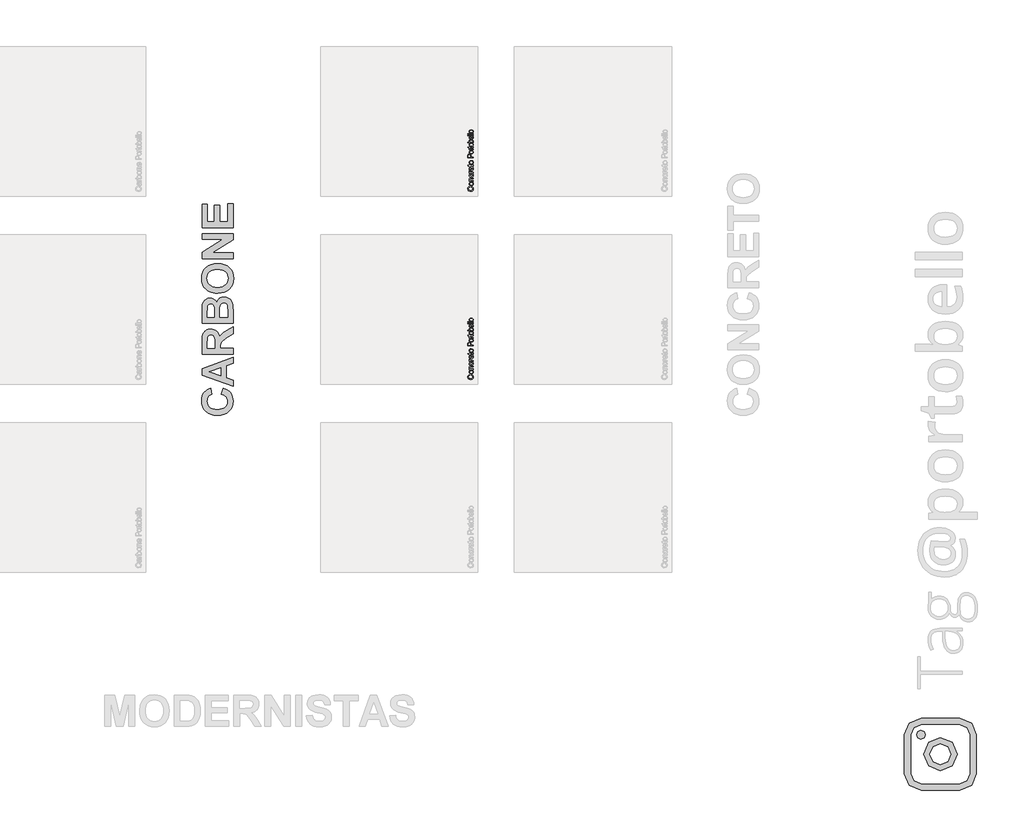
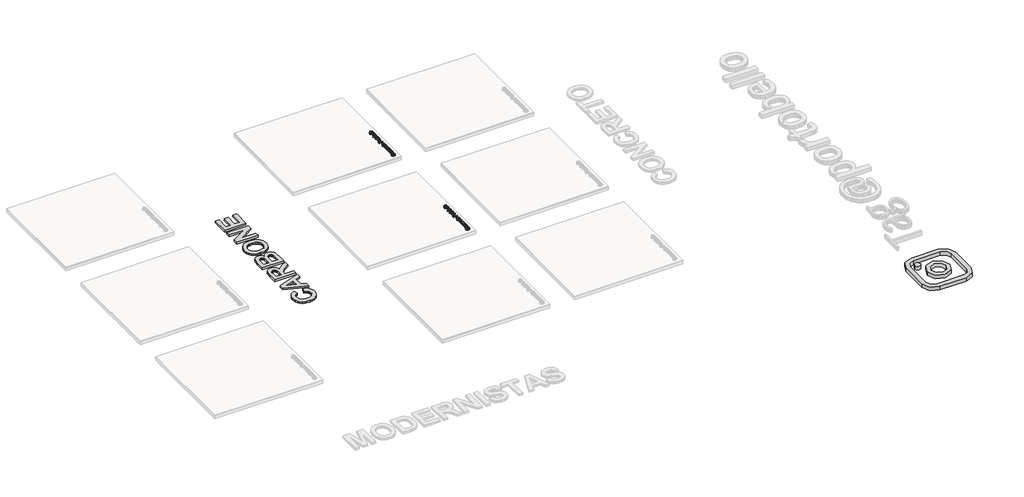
# One storey, part 6 of 12: 6 proxies.
"""IFC4 building model written with IfcOpenShell, lengths in millimetres."""

from ifc_helpers import new_model, si_unit, frame, origin, origin_with_axes, place, context, project, spatial, polyline, outline, extrude, transform, mapped, element, save
from components import generic_models_d67f6705

model = new_model("IFC4")

# Units and contexts
model_context = context("Model", 3, world=origin())
ifc_project = project(units=[si_unit("LENGTHUNIT", "METRE", prefix="MILLI")], contexts=[model_context])

# Site, building, storey
site = spatial("IfcSite", under=ifc_project)
building = spatial("IfcBuilding", under=site)
storey = spatial("IfcBuildingStorey", under=building, Name="PORTOBELLO - SHOWROOM", Elevation=0.0)

# Proxies
placement = place(None, origin())
generic_models_shape = generic_models_d67f6705(model_context)
element("IfcBuildingElementProxy", 1, Name="Blks_Instagram1 : Único", ObjectType="Blks_Instagram1 : Único", at=placement, inside=storey, context=model_context, shape_type="MappedRepresentation", body=[
    mapped(generic_models_shape, transform((-10832.1200562, -13141.2406298, 0.0), x_axis=(-1.0, 0.0, 0.0), y_axis=(0.0, -1.0, 0.0), z_axis=(0.0, 0.0, 1.0))),
])
element("IfcBuildingElementProxy", 2, Name="10mm Arial", ObjectType="10mm Arial", at=placement, inside=storey, context=model_context, shape_type="SweptSolid", body=[
    extrude(outline(polyline([(-19305.3095564, -6297.3091823), (-19302.0721949, -6284.7521435), (-19287.4396885, -6290.5462849), (-19276.7496509, -6299.6391016), (-19270.2105484, -6311.5830037), (-19268.0308476, -6325.9304015), (-19269.6801852, -6340.4954628), (-19274.628198, -6352.0622859), (-19282.7032078, -6360.928242), (-19293.7335363, -6367.3907024), (-19320.588922, -6372.6514149), (-19335.2367567, -6371.1645585), (-19347.885766, -6366.7039893), (-19358.1343452, -6359.5026993), (-19365.58089, -6349.7936803), (-19370.1150356, -6338.2789738), (-19371.6264174, -6325.6606214), (-19369.6705115, -6311.8926377), (-19363.8027937, -6300.5097556), (-19354.3850146, -6291.8675944), (-19341.7789249, -6286.3217734), (-19338.786818, -6298.8788121), (-19354.2255991, -6309.179508), (-19359.0693787, -6326.1511307), (-19353.6983015, -6345.7960293), (-19339.2773273, -6356.8938028), (-19320.6134474, -6360.0943761), (-19298.9819861, -6356.3051916), (-19285.1618858, -6344.5084423), (-19280.5878863, -6327.1812003), (-19282.1452535, -6316.6996291), (-19286.8173548, -6307.9654974), (-19294.5551394, -6301.3712127), (-19305.3095564, -6297.3091823)])), frame((0.0, 0.0, 17.0), z_axis=(0.0, 0.0, 1.0), x_axis=(1.0, 0.0, 0.0)), (0.0, 0.0, 1.0), 20.0),
    extrude(outline(polyline([(-19306.4867788, -6272.1951048), (-19324.2738733, -6269.4789094), (-19336.7757297, -6261.3303232), (-19342.900965, -6251.2626192), (-19344.94271, -6239.2083525), (-19342.4564409, -6226.0167173), (-19334.9976334, -6215.4799638), (-19323.1548989, -6208.5729794), (-19307.5168484, -6206.2706512), (-19285.1741486, -6210.3418786), (-19272.5312707, -6222.1999416), (-19268.0308476, -6239.2083525), (-19270.5079197, -6252.5594033), (-19277.939136, -6263.083894), (-19290.0301909, -6269.9173021), (-19306.4867788, -6272.1951048)]), holes=[polyline([(-19306.5113043, -6259.638066), (-19295.1468163, -6258.1849321), (-19287.0503467, -6253.8255305), (-19282.2035014, -6247.2649682), (-19280.5878863, -6239.2083525), (-19282.2126985, -6231.188525), (-19287.0871349, -6224.6402255), (-19295.2909034, -6220.2808239), (-19306.9037117, -6218.82769), (-19317.9371059, -6220.2900209), (-19325.9232109, -6224.6770137), (-19330.7700562, -6231.2345103), (-19332.3856713, -6239.2083525), (-19330.7761875, -6247.2649682), (-19325.9477364, -6253.8255305), (-19317.8696609, -6258.1849321), (-19306.5113043, -6259.638066)])]), frame((0.0, 0.0, 17.0), z_axis=(0.0, 0.0, 1.0), x_axis=(1.0, 0.0, 0.0)), (0.0, 0.0, 1.0), 20.0),
    extrude(outline(polyline([(-19269.6004774, -6192.1439826), (-19343.3730802, -6192.1439826), (-19343.3730802, -6179.5869438), (-19333.0723843, -6179.5869438), (-19341.9751286, -6169.9852238), (-19344.94271, -6156.876362), (-19342.5514771, -6145.018299), (-19336.2729577, -6136.9248951), (-19327.0391196, -6133.160236), (-19314.8990138, -6132.4980485), (-19269.6004774, -6132.4980485), (-19269.6004774, -6145.0550872), (-19313.2067566, -6145.0550872), (-19324.3167928, -6146.5020897), (-19330.190642, -6151.6156495), (-19332.3856713, -6160.2363509), (-19327.4560525, -6173.8602474), (-19320.3130105, -6178.1552697), (-19308.7431217, -6179.5869438), (-19269.6004774, -6179.5869438), (-19269.6004774, -6192.1439826)])), frame((0.0, 0.0, 17.0), z_axis=(0.0, 0.0, 1.0), x_axis=(1.0, 0.0, 0.0)), (0.0, 0.0, 1.0), 20.0),
    extrude(outline(polyline([(-19296.2841848, -6068.1432248), (-19294.714555, -6055.586186), (-19283.5462707, -6059.0871963), (-19275.1064446, -6065.6661527), (-19269.7997468, -6074.703787), (-19268.0308476, -6085.5808313), (-19270.4987226, -6098.9380134), (-19277.9023478, -6109.3827964), (-19289.9167606, -6116.124234), (-19306.2169987, -6118.3713798), (-19327.0759078, -6114.5331444), (-19340.4790752, -6102.8344969), (-19344.94271, -6085.7525096), (-19343.4098684, -6075.1421797), (-19338.8113435, -6066.659434), (-19331.3923899, -6060.5740527), (-19321.3982623, -6057.1558158), (-19319.8286325, -6069.7128546), (-19329.2341488, -6075.5376529), (-19332.3856713, -6085.6544077), (-19330.8344355, -6093.7692714), (-19326.1807283, -6100.210272), (-19318.1731635, -6104.4133238), (-19306.5603552, -6105.8143411), (-19294.791197, -6104.4439806), (-19286.7560411, -6100.3328993), (-19282.129925, -6094.0083947), (-19280.5878863, -6085.9977643), (-19284.4383846, -6074.1642267), (-19296.2841848, -6068.1432248)])), frame((0.0, 0.0, 17.0), z_axis=(0.0, 0.0, 1.0), x_axis=(1.0, 0.0, 0.0)), (0.0, 0.0, 1.0), 20.0),
    extrude(outline(polyline([(-19269.6004774, -6044.5987771), (-19343.3730802, -6044.5987771), (-19343.3730802, -6033.6113681), (-19332.4592477, -6033.6113681), (-19342.5146889, -6025.8122698), (-19344.94271, -6017.9641206), (-19341.0676864, -6005.3580309), (-19329.8104973, -6009.5518857), (-19332.3856713, -6018.3810535), (-19329.9085992, -6025.4811761), (-19323.0414686, -6030.0061246), (-19308.3752397, -6032.0417383), (-19269.6004774, -6032.0417383), (-19269.6004774, -6044.5987771)])), frame((0.0, 0.0, 17.0), z_axis=(0.0, 0.0, 1.0), x_axis=(1.0, 0.0, 0.0)), (0.0, 0.0, 1.0), 20.0),
    extrude(outline(polyline([(-19291.5752953, -5945.8592496), (-19290.0056654, -5933.5474655), (-19280.7289078, -5937.9835092), (-19273.7943322, -5945.0621719), (-19269.4717187, -5954.6240381), (-19268.0308476, -5966.5096922), (-19270.5171167, -5981.2433661), (-19277.9759242, -5992.580263), (-19289.922892, -5999.8091442), (-19305.8736422, -6002.2187712), (-19322.3608869, -5999.7846187), (-19334.6910651, -5992.4821611), (-19342.3797988, -5981.2985484), (-19344.94271, -5967.2209308), (-19342.3859302, -5953.5817058), (-19334.7155906, -5942.6832017), (-19322.4099378, -5935.5370939), (-19305.9472185, -5933.155058), (-19302.5627042, -5933.2286344), (-19302.5627042, -5989.6617325), (-19293.1633192, -5987.488163), (-19286.2532691, -5982.4389826), (-19282.004232, -5975.1518534), (-19280.5878863, -5966.2644376), (-19283.2121112, -5953.9526535), (-19291.5752953, -5945.8592496)]), holes=[polyline([(-19315.119743, -5989.6617325), (-19315.119743, -5945.7120968), (-19326.4995593, -5950.7398174), (-19330.9141433, -5958.0606691), (-19332.3856713, -5967.2699817), (-19327.6890445, -5982.7332882), (-19322.1984057, -5987.5985276), (-19315.119743, -5989.6617325)])]), frame((0.0, 0.0, 17.0), z_axis=(0.0, 0.0, 1.0), x_axis=(1.0, 0.0, 0.0)), (0.0, 0.0, 1.0), 20.0),
    extrude(outline(polyline([(-19280.0728516, -5893.9143118), (-19269.2325954, -5892.344682), (-19268.0308476, -5901.7379356), (-19270.1155122, -5912.2593607), (-19275.5846912, -5917.5078105), (-19289.8339872, -5919.0283894), (-19330.8160414, -5919.0283894), (-19330.8160414, -5928.4461685), (-19343.3730802, -5928.4461685), (-19343.3730802, -5919.0283894), (-19361.3011961, -5919.0283894), (-19368.6833615, -5906.4713506), (-19343.3730802, -5906.4713506), (-19343.3730802, -5893.9143118), (-19330.8160414, -5893.9143118), (-19330.8160414, -5906.4713506), (-19290.2018692, -5906.4713506), (-19283.727146, -5905.809163), (-19281.4340149, -5903.6631847), (-19280.5878863, -5899.3834908), (-19280.0728516, -5893.9143118)])), frame((0.0, 0.0, 17.0), z_axis=(0.0, 0.0, 1.0), x_axis=(1.0, 0.0, 0.0)), (0.0, 0.0, 1.0), 20.0),
    extrude(outline(polyline([(-19306.4867788, -5884.4965328), (-19324.2738733, -5881.7803374), (-19336.7757297, -5873.6317512), (-19342.900965, -5863.5640472), (-19344.94271, -5851.5097805), (-19342.4564409, -5838.3181453), (-19334.9976334, -5827.7813918), (-19323.1548989, -5820.8744074), (-19307.5168484, -5818.5720792), (-19285.1741486, -5822.6433066), (-19272.5312707, -5834.5013696), (-19268.0308476, -5851.5097805), (-19270.5079197, -5864.8608313), (-19277.939136, -5875.385322), (-19290.0301909, -5882.2187301), (-19306.4867788, -5884.4965328)]), holes=[polyline([(-19306.5113043, -5871.939494), (-19295.1468163, -5870.4863601), (-19287.0503467, -5866.1269585), (-19282.2035014, -5859.5663962), (-19280.5878863, -5851.5097805), (-19282.2126985, -5843.489953), (-19287.0871349, -5836.9416535), (-19295.2909034, -5832.5822519), (-19306.9037117, -5831.129118), (-19317.9371059, -5832.5914489), (-19325.9232109, -5836.9784417), (-19330.7700562, -5843.5359383), (-19332.3856713, -5851.5097805), (-19330.7761875, -5859.5663962), (-19325.9477364, -5866.1269585), (-19317.8696609, -5870.4863601), (-19306.5113043, -5871.939494)])]), frame((0.0, 0.0, 17.0), z_axis=(0.0, 0.0, 1.0), x_axis=(1.0, 0.0, 0.0)), (0.0, 0.0, 1.0), 20.0),
])
element("IfcBuildingElementProxy", 3, Name="10mm Arial", ObjectType="10mm Arial", at=placement, inside=storey, context=model_context, shape_type="SweptSolid", body=[
    extrude(outline(polyline([(-19305.3095564, -2897.3091823), (-19302.0721949, -2884.7521435), (-19287.4396885, -2890.5462849), (-19276.7496509, -2899.6391016), (-19270.2105484, -2911.5830037), (-19268.0308476, -2925.9304015), (-19269.6801852, -2940.4954628), (-19274.628198, -2952.0622859), (-19282.7032078, -2960.928242), (-19293.7335363, -2967.3907024), (-19320.588922, -2972.6514149), (-19335.2367567, -2971.1645585), (-19347.885766, -2966.7039893), (-19358.1343452, -2959.5026993), (-19365.58089, -2949.7936803), (-19370.1150356, -2938.2789738), (-19371.6264174, -2925.6606214), (-19369.6705115, -2911.8926377), (-19363.8027937, -2900.5097556), (-19354.3850146, -2891.8675944), (-19341.7789249, -2886.3217734), (-19338.786818, -2898.8788121), (-19354.2255991, -2909.179508), (-19359.0693787, -2926.1511307), (-19353.6983015, -2945.7960293), (-19339.2773273, -2956.8938028), (-19320.6134474, -2960.0943761), (-19298.9819861, -2956.3051916), (-19285.1618858, -2944.5084423), (-19280.5878863, -2927.1812003), (-19282.1452535, -2916.6996291), (-19286.8173548, -2907.9654974), (-19294.5551394, -2901.3712127), (-19305.3095564, -2897.3091823)])), frame((0.0, 0.0, 17.0), z_axis=(0.0, 0.0, 1.0), x_axis=(1.0, 0.0, 0.0)), (0.0, 0.0, 1.0), 20.0),
    extrude(outline(polyline([(-19306.4867788, -2872.1951048), (-19324.2738733, -2869.4789094), (-19336.7757297, -2861.3303232), (-19342.900965, -2851.2626192), (-19344.94271, -2839.2083525), (-19342.4564409, -2826.0167173), (-19334.9976334, -2815.4799638), (-19323.1548989, -2808.5729794), (-19307.5168484, -2806.2706512), (-19285.1741486, -2810.3418786), (-19272.5312707, -2822.1999416), (-19268.0308476, -2839.2083525), (-19270.5079197, -2852.5594033), (-19277.939136, -2863.083894), (-19290.0301909, -2869.9173021), (-19306.4867788, -2872.1951048)]), holes=[polyline([(-19306.5113043, -2859.638066), (-19295.1468163, -2858.1849321), (-19287.0503467, -2853.8255305), (-19282.2035014, -2847.2649682), (-19280.5878863, -2839.2083525), (-19282.2126985, -2831.188525), (-19287.0871349, -2824.6402255), (-19295.2909034, -2820.2808239), (-19306.9037117, -2818.82769), (-19317.9371059, -2820.2900209), (-19325.9232109, -2824.6770137), (-19330.7700562, -2831.2345103), (-19332.3856713, -2839.2083525), (-19330.7761875, -2847.2649682), (-19325.9477364, -2853.8255305), (-19317.8696609, -2858.1849321), (-19306.5113043, -2859.638066)])]), frame((0.0, 0.0, 17.0), z_axis=(0.0, 0.0, 1.0), x_axis=(1.0, 0.0, 0.0)), (0.0, 0.0, 1.0), 20.0),
    extrude(outline(polyline([(-19269.6004774, -2792.1439826), (-19343.3730802, -2792.1439826), (-19343.3730802, -2779.5869438), (-19333.0723843, -2779.5869438), (-19341.9751286, -2769.9852238), (-19344.94271, -2756.876362), (-19342.5514771, -2745.018299), (-19336.2729577, -2736.9248951), (-19327.0391196, -2733.160236), (-19314.8990138, -2732.4980485), (-19269.6004774, -2732.4980485), (-19269.6004774, -2745.0550872), (-19313.2067566, -2745.0550872), (-19324.3167928, -2746.5020897), (-19330.190642, -2751.6156495), (-19332.3856713, -2760.2363509), (-19327.4560525, -2773.8602474), (-19320.3130105, -2778.1552697), (-19308.7431217, -2779.5869438), (-19269.6004774, -2779.5869438), (-19269.6004774, -2792.1439826)])), frame((0.0, 0.0, 17.0), z_axis=(0.0, 0.0, 1.0), x_axis=(1.0, 0.0, 0.0)), (0.0, 0.0, 1.0), 20.0),
    extrude(outline(polyline([(-19296.2841848, -2668.1432248), (-19294.714555, -2655.586186), (-19283.5462707, -2659.0871963), (-19275.1064446, -2665.6661527), (-19269.7997468, -2674.703787), (-19268.0308476, -2685.5808313), (-19270.4987226, -2698.9380134), (-19277.9023478, -2709.3827964), (-19289.9167606, -2716.124234), (-19306.2169987, -2718.3713798), (-19327.0759078, -2714.5331444), (-19340.4790752, -2702.8344969), (-19344.94271, -2685.7525096), (-19343.4098684, -2675.1421797), (-19338.8113435, -2666.659434), (-19331.3923899, -2660.5740527), (-19321.3982623, -2657.1558158), (-19319.8286325, -2669.7128546), (-19329.2341488, -2675.5376529), (-19332.3856713, -2685.6544077), (-19330.8344355, -2693.7692714), (-19326.1807283, -2700.210272), (-19318.1731635, -2704.4133238), (-19306.5603552, -2705.8143411), (-19294.791197, -2704.4439806), (-19286.7560411, -2700.3328993), (-19282.129925, -2694.0083947), (-19280.5878863, -2685.9977643), (-19284.4383846, -2674.1642267), (-19296.2841848, -2668.1432248)])), frame((0.0, 0.0, 17.0), z_axis=(0.0, 0.0, 1.0), x_axis=(1.0, 0.0, 0.0)), (0.0, 0.0, 1.0), 20.0),
    extrude(outline(polyline([(-19269.6004774, -2644.5987771), (-19343.3730802, -2644.5987771), (-19343.3730802, -2633.6113681), (-19332.4592477, -2633.6113681), (-19342.5146889, -2625.8122698), (-19344.94271, -2617.9641206), (-19341.0676864, -2605.3580309), (-19329.8104973, -2609.5518857), (-19332.3856713, -2618.3810535), (-19329.9085992, -2625.4811761), (-19323.0414686, -2630.0061246), (-19308.3752397, -2632.0417383), (-19269.6004774, -2632.0417383), (-19269.6004774, -2644.5987771)])), frame((0.0, 0.0, 17.0), z_axis=(0.0, 0.0, 1.0), x_axis=(1.0, 0.0, 0.0)), (0.0, 0.0, 1.0), 20.0),
    extrude(outline(polyline([(-19291.5752953, -2545.8592496), (-19290.0056654, -2533.5474655), (-19280.7289078, -2537.9835092), (-19273.7943322, -2545.0621719), (-19269.4717187, -2554.6240381), (-19268.0308476, -2566.5096922), (-19270.5171167, -2581.2433661), (-19277.9759242, -2592.580263), (-19289.922892, -2599.8091442), (-19305.8736422, -2602.2187712), (-19322.3608869, -2599.7846187), (-19334.6910651, -2592.4821611), (-19342.3797988, -2581.2985484), (-19344.94271, -2567.2209308), (-19342.3859302, -2553.5817058), (-19334.7155906, -2542.6832017), (-19322.4099378, -2535.5370939), (-19305.9472185, -2533.155058), (-19302.5627042, -2533.2286344), (-19302.5627042, -2589.6617325), (-19293.1633192, -2587.488163), (-19286.2532691, -2582.4389826), (-19282.004232, -2575.1518534), (-19280.5878863, -2566.2644376), (-19283.2121112, -2553.9526535), (-19291.5752953, -2545.8592496)]), holes=[polyline([(-19315.119743, -2589.6617325), (-19315.119743, -2545.7120968), (-19326.4995593, -2550.7398174), (-19330.9141433, -2558.0606691), (-19332.3856713, -2567.2699817), (-19327.6890445, -2582.7332882), (-19322.1984057, -2587.5985276), (-19315.119743, -2589.6617325)])]), frame((0.0, 0.0, 17.0), z_axis=(0.0, 0.0, 1.0), x_axis=(1.0, 0.0, 0.0)), (0.0, 0.0, 1.0), 20.0),
    extrude(outline(polyline([(-19280.0728516, -2493.9143118), (-19269.2325954, -2492.344682), (-19268.0308476, -2501.7379356), (-19270.1155122, -2512.2593607), (-19275.5846912, -2517.5078105), (-19289.8339872, -2519.0283894), (-19330.8160414, -2519.0283894), (-19330.8160414, -2528.4461685), (-19343.3730802, -2528.4461685), (-19343.3730802, -2519.0283894), (-19361.3011961, -2519.0283894), (-19368.6833615, -2506.4713506), (-19343.3730802, -2506.4713506), (-19343.3730802, -2493.9143118), (-19330.8160414, -2493.9143118), (-19330.8160414, -2506.4713506), (-19290.2018692, -2506.4713506), (-19283.727146, -2505.809163), (-19281.4340149, -2503.6631847), (-19280.5878863, -2499.3834908), (-19280.0728516, -2493.9143118)])), frame((0.0, 0.0, 17.0), z_axis=(0.0, 0.0, 1.0), x_axis=(1.0, 0.0, 0.0)), (0.0, 0.0, 1.0), 20.0),
    extrude(outline(polyline([(-19306.4867788, -2484.4965328), (-19324.2738733, -2481.7803374), (-19336.7757297, -2473.6317512), (-19342.900965, -2463.5640472), (-19344.94271, -2451.5097805), (-19342.4564409, -2438.3181453), (-19334.9976334, -2427.7813918), (-19323.1548989, -2420.8744074), (-19307.5168484, -2418.5720792), (-19285.1741486, -2422.6433066), (-19272.5312707, -2434.5013696), (-19268.0308476, -2451.5097805), (-19270.5079197, -2464.8608313), (-19277.939136, -2475.385322), (-19290.0301909, -2482.2187301), (-19306.4867788, -2484.4965328)]), holes=[polyline([(-19306.5113043, -2471.939494), (-19295.1468163, -2470.4863601), (-19287.0503467, -2466.1269585), (-19282.2035014, -2459.5663962), (-19280.5878863, -2451.5097805), (-19282.2126985, -2443.489953), (-19287.0871349, -2436.9416535), (-19295.2909034, -2432.5822519), (-19306.9037117, -2431.129118), (-19317.9371059, -2432.5914489), (-19325.9232109, -2436.9784417), (-19330.7700562, -2443.5359383), (-19332.3856713, -2451.5097805), (-19330.7761875, -2459.5663962), (-19325.9477364, -2466.1269585), (-19317.8696609, -2470.4863601), (-19306.5113043, -2471.939494)])]), frame((0.0, 0.0, 17.0), z_axis=(0.0, 0.0, 1.0), x_axis=(1.0, 0.0, 0.0)), (0.0, 0.0, 1.0), 20.0),
])
element("IfcBuildingElementProxy", 4, Name="10mm Arial Narrow", ObjectType="10mm Arial Narrow", at=placement, inside=storey, context=model_context, shape_type="SweptSolid", body=[
    extrude(outline(polyline([(-19269.6004774, -5765.6286257), (-19370.3190812, -5765.6286257), (-19370.3190812, -5734.3317411), (-19368.4407604, -5718.0360395), (-19358.9603173, -5706.5630534), (-19341.9412084, -5702.273375), (-19329.8653829, -5704.0596834), (-19320.2389891, -5709.4186086), (-19313.9377307, -5719.1623974), (-19311.8373113, -5734.1032966), (-19311.8373113, -5755.8816641), (-19269.6004774, -5755.8816641), (-19269.6004774, -5765.6286257)]), holes=[polyline([(-19323.2087665, -5755.8816641), (-19323.2087665, -5732.9103091), (-19327.7395807, -5717.0461137), (-19341.4081715, -5712.0203366), (-19351.5739479, -5714.4951511), (-19357.3738977, -5720.47278), (-19358.9476259, -5733.1387536), (-19358.9476259, -5755.8816641), (-19323.2087665, -5755.8816641)])]), frame((0.0, 0.0, 17.0), z_axis=(0.0, 0.0, 1.0), x_axis=(1.0, 0.0, 0.0)), (0.0, 0.0, 1.0), 20.0),
    extrude(outline(polyline([(-19306.1515836, -5694.1509069), (-19322.7423592, -5692.1964381), (-19334.694444, -5686.3330315), (-19341.9189986, -5677.4744647), (-19344.3271834, -5666.5345156), (-19341.9189986, -5655.72148), (-19334.694444, -5646.8375306), (-19322.9327295, -5640.8979758), (-19306.913065, -5638.9181242), (-19289.7511784, -5640.8630746), (-19277.6087233, -5646.6979257), (-19270.3841687, -5655.5469739), (-19267.9759838, -5666.5345156), (-19270.3905144, -5677.3951438), (-19277.634106, -5686.2695747), (-19289.5925365, -5692.1805739), (-19306.1515836, -5694.1509069)]), holes=[polyline([(-19306.1769663, -5684.4039453), (-19293.6252149, -5683.0999084), (-19284.7539569, -5679.1877978), (-19279.4806983, -5673.3466011), (-19277.7229455, -5666.2553058), (-19279.4965625, -5659.5352326), (-19284.8174137, -5653.8431593), (-19293.7045359, -5649.9596042), (-19306.1769663, -5648.6650859), (-19318.6906437, -5649.9691228), (-19327.5492104, -5653.8812333), (-19332.8224689, -5659.7224301), (-19334.5802218, -5666.8137254), (-19332.8129504, -5673.5813912), (-19327.5111363, -5679.263946), (-19318.6430511, -5683.1189455), (-19306.1769663, -5684.4039453)])]), frame((0.0, 0.0, 17.0), z_axis=(0.0, 0.0, 1.0), x_axis=(1.0, 0.0, 0.0)), (0.0, 0.0, 1.0), 20.0),
    extrude(outline(polyline([(-19277.7229455, -5567.4404054), (-19267.9759838, -5565.8159118), (-19267.9759838, -5573.1768985), (-19270.0954403, -5581.4516628), (-19275.8953902, -5585.766724), (-19290.5412154, -5586.9343288), (-19332.9557282, -5586.9343288), (-19332.9557282, -5595.0567968), (-19336.2047154, -5595.0567968), (-19331.3312346, -5596.6812904), (-19332.9557282, -5604.2453388), (-19330.63321, -5610.3244985), (-19324.1479269, -5614.1953621), (-19308.7406203, -5616.1752137), (-19269.6004774, -5616.1752137), (-19269.6004774, -5625.9221754), (-19342.7026898, -5625.9221754), (-19342.7026898, -5616.1752137), (-19333.0064936, -5616.1752137), (-19342.0935047, -5609.9310664), (-19344.3271834, -5603.5346228), (-19342.7026898, -5595.0567968), (-19342.7026898, -5586.9343288), (-19358.9476259, -5586.9343288), (-19367.070094, -5577.1873671), (-19342.7026898, -5577.1873671), (-19342.7026898, -5567.4404054), (-19332.9557282, -5567.4404054), (-19332.9557282, -5577.1873671), (-19288.3075366, -5577.1873671), (-19280.3119822, -5576.3243549), (-19277.7229455, -5571.7047012), (-19277.7229455, -5567.4404054)])), frame((0.0, 0.0, 17.0), z_axis=(0.0, 0.0, 1.0), x_axis=(1.0, 0.0, 0.0)), (0.0, 0.0, 1.0), 20.0),
    extrude(outline(polyline([(-19306.1515836, -5560.942431), (-19322.7423592, -5558.9879621), (-19334.694444, -5553.1245555), (-19341.9189986, -5544.2659888), (-19344.3271834, -5533.3260397), (-19341.9189986, -5522.5130041), (-19334.694444, -5513.6290547), (-19322.9327295, -5507.6894999), (-19306.913065, -5505.7096483), (-19289.7511784, -5507.6545987), (-19277.6087233, -5513.4894497), (-19270.3841687, -5522.3384979), (-19267.9759838, -5533.3260397), (-19270.3905144, -5544.1866678), (-19277.634106, -5553.0610987), (-19289.5925365, -5558.9720979), (-19306.1515836, -5560.942431)]), holes=[polyline([(-19306.1769663, -5551.1954694), (-19293.6252149, -5549.8914325), (-19284.7539569, -5545.9793219), (-19279.4806983, -5540.1381252), (-19277.7229455, -5533.0468298), (-19279.4965625, -5526.3267567), (-19284.8174137, -5520.6346833), (-19293.7045359, -5516.7511283), (-19306.1769663, -5515.45661), (-19318.6906437, -5516.7606468), (-19327.5492104, -5520.6727574), (-19332.8224689, -5526.5139542), (-19334.5802218, -5533.6052495), (-19332.8129504, -5540.3729153), (-19327.5111363, -5546.05547), (-19318.6430511, -5549.9104695), (-19306.1769663, -5551.1954694)])]), frame((0.0, 0.0, 17.0), z_axis=(0.0, 0.0, 1.0), x_axis=(1.0, 0.0, 0.0)), (0.0, 0.0, 1.0), 20.0),
    extrude(outline(polyline([(-19269.6004774, -5482.9667378), (-19269.6004774, -5492.7136994), (-19370.3190812, -5492.7136994), (-19370.3190812, -5482.9667378), (-19334.910197, -5482.9667378), (-19341.9919739, -5475.5676771), (-19344.3271834, -5466.3664437), (-19340.1263445, -5453.4847171), (-19327.3969141, -5444.2073356), (-19306.7100033, -5440.729904), (-19290.2556598, -5442.662163), (-19278.0529207, -5448.45894), (-19270.495218, -5456.8320623), (-19267.9759838, -5466.4933573), (-19270.5904032, -5475.8341955), (-19278.3575133, -5482.9667378), (-19269.6004774, -5482.9667378)]), holes=[polyline([(-19306.7100033, -5482.9667378), (-19289.4624501, -5480.8853553), (-19280.7307969, -5474.996566), (-19277.7229455, -5466.5441227), (-19279.5124267, -5460.6013951), (-19284.8808704, -5455.3630378), (-19306.3038799, -5450.4768656), (-19327.7395807, -5455.1853588), (-19332.8700615, -5460.4300618), (-19334.5802218, -5466.7471844), (-19332.7907405, -5472.7248132), (-19327.4222968, -5478.0171088), (-19306.7100033, -5482.9667378)])]), frame((0.0, 0.0, 17.0), z_axis=(0.0, 0.0, 1.0), x_axis=(1.0, 0.0, 0.0)), (0.0, 0.0, 1.0), 20.0),
    extrude(outline(polyline([(-19292.343388, -5388.7461085), (-19290.7188943, -5378.9991468), (-19280.8323278, -5382.6986772), (-19273.7124769, -5388.5176641), (-19269.4101071, -5396.2213173), (-19267.9759838, -5405.5748469), (-19270.3905144, -5417.1684009), (-19277.634106, -5426.3125232), (-19289.4402402, -5432.2520779), (-19305.5423985, -5434.2319295), (-19322.2093222, -5432.2425594), (-19334.3898514, -5426.2744491), (-19341.8428504, -5417.2604133), (-19344.3271834, -5406.1332666), (-19341.9285171, -5395.4503174), (-19334.7325181, -5386.7028001), (-19322.9930135, -5380.867949), (-19306.9638304, -5378.9229987), (-19303.7148432, -5378.9991468), (-19303.7148432, -5424.4849679), (-19284.2716853, -5418.4819563), (-19279.3601304, -5412.5519201), (-19277.7229455, -5405.4479334), (-19281.3780561, -5395.2694656), (-19292.343388, -5388.7461085)]), holes=[polyline([(-19313.4618049, -5423.8250173), (-19313.4618049, -5388.7461085), (-19327.7268894, -5393.0104042), (-19332.8668887, -5398.8357367), (-19334.5802218, -5406.0571185), (-19328.8691114, -5418.2662033), (-19313.4618049, -5423.8250173)])]), frame((0.0, 0.0, 17.0), z_axis=(0.0, 0.0, 1.0), x_axis=(1.0, 0.0, 0.0)), (0.0, 0.0, 1.0), 20.0),
    extrude(outline(polyline([(-19269.6004774, -5366.0031979), (-19370.3190812, -5366.0031979), (-19370.3190812, -5356.2562363), (-19269.6004774, -5356.2562363), (-19269.6004774, -5366.0031979)])), frame((0.0, 0.0, 17.0), z_axis=(0.0, 0.0, 1.0), x_axis=(1.0, 0.0, 0.0)), (0.0, 0.0, 1.0), 20.0),
    extrude(outline(polyline([(-19269.6004774, -5340.0113002), (-19370.3190812, -5340.0113002), (-19370.3190812, -5330.2643385), (-19269.6004774, -5330.2643385), (-19269.6004774, -5340.0113002)])), frame((0.0, 0.0, 17.0), z_axis=(0.0, 0.0, 1.0), x_axis=(1.0, 0.0, 0.0)), (0.0, 0.0, 1.0), 20.0),
    extrude(outline(polyline([(-19306.1515836, -5318.8928833), (-19322.7423592, -5316.9384144), (-19334.694444, -5311.0750078), (-19341.9189986, -5302.2164411), (-19344.3271834, -5291.2764919), (-19341.9189986, -5280.4634563), (-19334.694444, -5271.5795069), (-19322.9327295, -5265.6399522), (-19306.913065, -5263.6601006), (-19289.7511784, -5265.6050509), (-19277.6087233, -5271.439902), (-19270.3841687, -5280.2889502), (-19267.9759838, -5291.2764919), (-19270.3905144, -5302.1371201), (-19277.634106, -5311.011551), (-19289.5925365, -5316.9225502), (-19306.1515836, -5318.8928833)]), holes=[polyline([(-19306.1769663, -5309.1459216), (-19293.6252149, -5307.8418848), (-19284.7539569, -5303.9297742), (-19279.4806983, -5298.0885774), (-19277.7229455, -5290.9972821), (-19279.4965625, -5284.2772089), (-19284.8174137, -5278.5851356), (-19293.7045359, -5274.7015806), (-19306.1769663, -5273.4070622), (-19318.6906437, -5274.7110991), (-19327.5492104, -5278.6232097), (-19332.8224689, -5284.4644064), (-19334.5802218, -5291.5557018), (-19332.8129504, -5298.3233675), (-19327.5111363, -5304.0059223), (-19318.6430511, -5307.8609218), (-19306.1769663, -5309.1459216)])]), frame((0.0, 0.0, 17.0), z_axis=(0.0, 0.0, 1.0), x_axis=(1.0, 0.0, 0.0)), (0.0, 0.0, 1.0), 20.0),
])
element("IfcBuildingElementProxy", 5, Name="10mm Arial Narrow", ObjectType="10mm Arial Narrow", at=placement, inside=storey, context=model_context, shape_type="SweptSolid", body=[
    extrude(outline(polyline([(-19269.6004774, -2365.6286257), (-19370.3190812, -2365.6286257), (-19370.3190812, -2334.3317411), (-19368.4407604, -2318.0360395), (-19358.9603173, -2306.5630534), (-19341.9412084, -2302.273375), (-19329.8653829, -2304.0596834), (-19320.2389891, -2309.4186086), (-19313.9377307, -2319.1623974), (-19311.8373113, -2334.1032966), (-19311.8373113, -2355.8816641), (-19269.6004774, -2355.8816641), (-19269.6004774, -2365.6286257)]), holes=[polyline([(-19323.2087665, -2355.8816641), (-19323.2087665, -2332.9103091), (-19327.7395807, -2317.0461137), (-19341.4081715, -2312.0203366), (-19351.5739479, -2314.4951511), (-19357.3738977, -2320.47278), (-19358.9476259, -2333.1387536), (-19358.9476259, -2355.8816641), (-19323.2087665, -2355.8816641)])]), frame((0.0, 0.0, 17.0), z_axis=(0.0, 0.0, 1.0), x_axis=(1.0, 0.0, 0.0)), (0.0, 0.0, 1.0), 20.0),
    extrude(outline(polyline([(-19306.1515836, -2294.1509069), (-19322.7423592, -2292.1964381), (-19334.694444, -2286.3330315), (-19341.9189986, -2277.4744647), (-19344.3271834, -2266.5345156), (-19341.9189986, -2255.72148), (-19334.694444, -2246.8375306), (-19322.9327295, -2240.8979758), (-19306.913065, -2238.9181242), (-19289.7511784, -2240.8630746), (-19277.6087233, -2246.6979257), (-19270.3841687, -2255.5469739), (-19267.9759838, -2266.5345156), (-19270.3905144, -2277.3951438), (-19277.634106, -2286.2695747), (-19289.5925365, -2292.1805739), (-19306.1515836, -2294.1509069)]), holes=[polyline([(-19306.1769663, -2284.4039453), (-19293.6252149, -2283.0999084), (-19284.7539569, -2279.1877978), (-19279.4806983, -2273.3466011), (-19277.7229455, -2266.2553058), (-19279.4965625, -2259.5352326), (-19284.8174137, -2253.8431593), (-19293.7045359, -2249.9596042), (-19306.1769663, -2248.6650859), (-19318.6906437, -2249.9691228), (-19327.5492104, -2253.8812333), (-19332.8224689, -2259.7224301), (-19334.5802218, -2266.8137254), (-19332.8129504, -2273.5813912), (-19327.5111363, -2279.263946), (-19318.6430511, -2283.1189455), (-19306.1769663, -2284.4039453)])]), frame((0.0, 0.0, 17.0), z_axis=(0.0, 0.0, 1.0), x_axis=(1.0, 0.0, 0.0)), (0.0, 0.0, 1.0), 20.0),
    extrude(outline(polyline([(-19277.7229455, -2167.4404054), (-19267.9759838, -2165.8159118), (-19267.9759838, -2173.1768985), (-19270.0954403, -2181.4516628), (-19275.8953902, -2185.766724), (-19290.5412154, -2186.9343288), (-19332.9557282, -2186.9343288), (-19332.9557282, -2195.0567968), (-19336.2047154, -2195.0567968), (-19331.3312346, -2196.6812904), (-19332.9557282, -2204.2453388), (-19330.63321, -2210.3244985), (-19324.1479269, -2214.1953621), (-19308.7406203, -2216.1752137), (-19269.6004774, -2216.1752137), (-19269.6004774, -2225.9221754), (-19342.7026898, -2225.9221754), (-19342.7026898, -2216.1752137), (-19333.0064936, -2216.1752137), (-19342.0935047, -2209.9310664), (-19344.3271834, -2203.5346228), (-19342.7026898, -2195.0567968), (-19342.7026898, -2186.9343288), (-19358.9476259, -2186.9343288), (-19367.070094, -2177.1873671), (-19342.7026898, -2177.1873671), (-19342.7026898, -2167.4404054), (-19332.9557282, -2167.4404054), (-19332.9557282, -2177.1873671), (-19288.3075366, -2177.1873671), (-19280.3119822, -2176.3243549), (-19277.7229455, -2171.7047012), (-19277.7229455, -2167.4404054)])), frame((0.0, 0.0, 17.0), z_axis=(0.0, 0.0, 1.0), x_axis=(1.0, 0.0, 0.0)), (0.0, 0.0, 1.0), 20.0),
    extrude(outline(polyline([(-19306.1515836, -2160.942431), (-19322.7423592, -2158.9879621), (-19334.694444, -2153.1245555), (-19341.9189986, -2144.2659888), (-19344.3271834, -2133.3260397), (-19341.9189986, -2122.5130041), (-19334.694444, -2113.6290547), (-19322.9327295, -2107.6894999), (-19306.913065, -2105.7096483), (-19289.7511784, -2107.6545987), (-19277.6087233, -2113.4894497), (-19270.3841687, -2122.3384979), (-19267.9759838, -2133.3260397), (-19270.3905144, -2144.1866678), (-19277.634106, -2153.0610987), (-19289.5925365, -2158.9720979), (-19306.1515836, -2160.942431)]), holes=[polyline([(-19306.1769663, -2151.1954694), (-19293.6252149, -2149.8914325), (-19284.7539569, -2145.9793219), (-19279.4806983, -2140.1381252), (-19277.7229455, -2133.0468298), (-19279.4965625, -2126.3267567), (-19284.8174137, -2120.6346833), (-19293.7045359, -2116.7511283), (-19306.1769663, -2115.45661), (-19318.6906437, -2116.7606468), (-19327.5492104, -2120.6727574), (-19332.8224689, -2126.5139542), (-19334.5802218, -2133.6052495), (-19332.8129504, -2140.3729153), (-19327.5111363, -2146.05547), (-19318.6430511, -2149.9104695), (-19306.1769663, -2151.1954694)])]), frame((0.0, 0.0, 17.0), z_axis=(0.0, 0.0, 1.0), x_axis=(1.0, 0.0, 0.0)), (0.0, 0.0, 1.0), 20.0),
    extrude(outline(polyline([(-19269.6004774, -2082.9667378), (-19269.6004774, -2092.7136994), (-19370.3190812, -2092.7136994), (-19370.3190812, -2082.9667378), (-19334.910197, -2082.9667378), (-19341.9919739, -2075.5676771), (-19344.3271834, -2066.3664437), (-19340.1263445, -2053.4847171), (-19327.3969141, -2044.2073356), (-19306.7100033, -2040.729904), (-19290.2556598, -2042.662163), (-19278.0529207, -2048.45894), (-19270.495218, -2056.8320623), (-19267.9759838, -2066.4933573), (-19270.5904032, -2075.8341955), (-19278.3575133, -2082.9667378), (-19269.6004774, -2082.9667378)]), holes=[polyline([(-19306.7100033, -2082.9667378), (-19289.4624501, -2080.8853553), (-19280.7307969, -2074.996566), (-19277.7229455, -2066.5441227), (-19279.5124267, -2060.6013951), (-19284.8808704, -2055.3630378), (-19306.3038799, -2050.4768656), (-19327.7395807, -2055.1853588), (-19332.8700615, -2060.4300618), (-19334.5802218, -2066.7471844), (-19332.7907405, -2072.7248132), (-19327.4222968, -2078.0171088), (-19306.7100033, -2082.9667378)])]), frame((0.0, 0.0, 17.0), z_axis=(0.0, 0.0, 1.0), x_axis=(1.0, 0.0, 0.0)), (0.0, 0.0, 1.0), 20.0),
    extrude(outline(polyline([(-19292.343388, -1988.7461085), (-19290.7188943, -1978.9991468), (-19280.8323278, -1982.6986772), (-19273.7124769, -1988.5176641), (-19269.4101071, -1996.2213173), (-19267.9759838, -2005.5748469), (-19270.3905144, -2017.1684009), (-19277.634106, -2026.3125232), (-19289.4402402, -2032.2520779), (-19305.5423985, -2034.2319295), (-19322.2093222, -2032.2425594), (-19334.3898514, -2026.2744491), (-19341.8428504, -2017.2604133), (-19344.3271834, -2006.1332666), (-19341.9285171, -1995.4503174), (-19334.7325181, -1986.7028001), (-19322.9930135, -1980.867949), (-19306.9638304, -1978.9229987), (-19303.7148432, -1978.9991468), (-19303.7148432, -2024.4849679), (-19284.2716853, -2018.4819563), (-19279.3601304, -2012.5519201), (-19277.7229455, -2005.4479334), (-19281.3780561, -1995.2694656), (-19292.343388, -1988.7461085)]), holes=[polyline([(-19313.4618049, -2023.8250173), (-19313.4618049, -1988.7461085), (-19327.7268894, -1993.0104042), (-19332.8668887, -1998.8357367), (-19334.5802218, -2006.0571185), (-19328.8691114, -2018.2662033), (-19313.4618049, -2023.8250173)])]), frame((0.0, 0.0, 17.0), z_axis=(0.0, 0.0, 1.0), x_axis=(1.0, 0.0, 0.0)), (0.0, 0.0, 1.0), 20.0),
    extrude(outline(polyline([(-19269.6004774, -1966.0031979), (-19370.3190812, -1966.0031979), (-19370.3190812, -1956.2562363), (-19269.6004774, -1956.2562363), (-19269.6004774, -1966.0031979)])), frame((0.0, 0.0, 17.0), z_axis=(0.0, 0.0, 1.0), x_axis=(1.0, 0.0, 0.0)), (0.0, 0.0, 1.0), 20.0),
    extrude(outline(polyline([(-19269.6004774, -1940.0113002), (-19370.3190812, -1940.0113002), (-19370.3190812, -1930.2643385), (-19269.6004774, -1930.2643385), (-19269.6004774, -1940.0113002)])), frame((0.0, 0.0, 17.0), z_axis=(0.0, 0.0, 1.0), x_axis=(1.0, 0.0, 0.0)), (0.0, 0.0, 1.0), 20.0),
    extrude(outline(polyline([(-19306.1515836, -1918.8928833), (-19322.7423592, -1916.9384144), (-19334.694444, -1911.0750078), (-19341.9189986, -1902.2164411), (-19344.3271834, -1891.2764919), (-19341.9189986, -1880.4634563), (-19334.694444, -1871.5795069), (-19322.9327295, -1865.6399522), (-19306.913065, -1863.6601006), (-19289.7511784, -1865.6050509), (-19277.6087233, -1871.439902), (-19270.3841687, -1880.2889502), (-19267.9759838, -1891.2764919), (-19270.3905144, -1902.1371201), (-19277.634106, -1911.011551), (-19289.5925365, -1916.9225502), (-19306.1515836, -1918.8928833)]), holes=[polyline([(-19306.1769663, -1909.1459216), (-19293.6252149, -1907.8418848), (-19284.7539569, -1903.9297742), (-19279.4806983, -1898.0885774), (-19277.7229455, -1890.9972821), (-19279.4965625, -1884.2772089), (-19284.8174137, -1878.5851356), (-19293.7045359, -1874.7015806), (-19306.1769663, -1873.4070622), (-19318.6906437, -1874.7110991), (-19327.5492104, -1878.6232097), (-19332.8224689, -1884.4644064), (-19334.5802218, -1891.5557018), (-19332.8129504, -1898.3233675), (-19327.5111363, -1904.0059223), (-19318.6430511, -1907.8609218), (-19306.1769663, -1909.1459216)])]), frame((0.0, 0.0, 17.0), z_axis=(0.0, 0.0, 1.0), x_axis=(1.0, 0.0, 0.0)), (0.0, 0.0, 1.0), 20.0),
])
element("IfcBuildingElementProxy", 6, Name="550mm Arial", ObjectType="550mm Arial", at=placement, inside=storey, context=model_context, shape_type="SweptSolid", body=[
    extrude(outline(polyline([(-23824.708148, -6638.94272), (-23789.080042, -6532.058402), (-23746.8195066, -6546.8193629), (-23710.3607159, -6565.772889), (-23679.7036701, -6588.9189804), (-23654.8483691, -6616.2576369), (-23635.6382441, -6647.6757812), (-23621.9167262, -6683.0603357), (-23613.6838154, -6722.4113005), (-23610.9395119, -6765.7286755), (-23615.6278784, -6819.249119), (-23629.6929778, -6867.7767565), (-23653.1348103, -6911.3115882), (-23685.9533757, -6949.8536141), (-23726.9048218, -6981.3935341), (-23774.7452962, -7003.9220484), (-23829.474799, -7017.439157), (-23891.09333, -7021.9448599), (-23956.0693925, -7017.4000148), (-24013.356186, -7003.7654796), (-24062.9537106, -6981.0412543), (-24104.8619662, -6949.2273388), (-24138.1676346, -6910.0024989), (-24161.9573978, -6865.0455004), (-24176.2312557, -6814.3563432), (-24180.9892083, -6757.9350273), (-24177.0662894, -6708.5984508), (-24165.2975327, -6664.1329044), (-24145.6829382, -6624.5383881), (-24118.2225059, -6589.814902), (-24097.685895, -6571.7485992), (-24073.0958912, -6556.1004149), (-24044.4524944, -6542.8703492), (-24011.7557047, -6532.058402), (-23993.9416517, -6638.94272), (-24013.517104, -6645.6795287), (-24030.909291, -6655.3128606), (-24046.1182127, -6667.8427157), (-24059.1438692, -6683.2690942), (-24069.58614, -6701.0527032), (-24077.0449049, -6720.6542503), (-24081.5201638, -6742.0737355), (-24083.0119168, -6765.3111586), (-24080.3024063, -6797.0728845), (-24072.1738747, -6825.6945356), (-24058.6263222, -6851.1761119), (-24039.6597487, -6873.5176135), (-24014.6304823, -6891.6926446), (-23982.8948512, -6904.6748097), (-23944.4528555, -6912.4641088), (-23899.304495, -6915.0605418), (-23851.5162103, -6912.5423932), (-23811.1388499, -6904.9879474), (-23778.1724139, -6892.3972043), (-23752.6169023, -6874.7701641), (-23733.498109, -6853.1071274), (-23719.8418281, -6828.4083952), (-23711.6480596, -6800.6739675), (-23708.9168034, -6769.9038442), (-23710.6608062, -6746.9969552), (-23715.8928144, -6725.7340389), (-23724.6128282, -6706.1150952), (-23736.8208474, -6688.1401243), (-23752.7778202, -6672.200548), (-23772.7446946, -6658.6877886), (-23796.7214705, -6647.6018459), (-23824.708148, -6638.94272)])), origin_with_axes(), (0.0, 0.0, 1.0), 50.0),
    extrude(outline(polyline([(-23610.9395119, -5970.915732), (-23610.9395119, -6083.2277694), (-23735.637883, -6127.2062127), (-23735.637883, -6339.1656092), (-23610.9395119, -6382.5873634), (-23610.9395119, -6496.4302959), (-24172.0821818, -6291.5686863), (-24172.0821818, -6177.7257537), (-23610.9395119, -5970.915732)]), holes=[polyline([(-23833.6151746, -6161.4425959), (-24038.4767842, -6233.673014), (-23833.6151746, -6304.929226), (-23833.6151746, -6161.4425959)])]), origin_with_axes(), (0.0, 0.0, 1.0), 50.0),
    extrude(outline(polyline([(-23610.9395119, -5917.4735729), (-24172.0821818, -5917.4735729), (-24172.0821818, -5681.4373705), (-24168.289737, -5604.5446807), (-24156.9124023, -5552.0071415), (-24147.848807, -5532.8361587), (-24135.8278005, -5515.6831741), (-24120.8493829, -5500.5481876), (-24102.9135541, -5487.4311994), (-24082.7944601, -5476.8367089), (-24061.2662466, -5469.2692156), (-24038.3289137, -5464.7287197), (-24013.9824613, -5463.2152211), (-23983.634204, -5465.4028355), (-23956.051996, -5471.9656787), (-23931.2358371, -5482.9037508), (-23909.1857276, -5498.2170518), (-23890.4322616, -5517.888185), (-23875.5060336, -5541.899754), (-23864.4070435, -5570.2517588), (-23857.1352914, -5602.9441994), (-23834.798139, -5571.943572), (-23810.3734023, -5546.8577668), (-23774.9888477, -5520.9021349), (-23719.772242, -5487.2920271), (-23610.9395119, -5418.6800885), (-23610.9395119, -5543.5176319), (-23739.1171902, -5624.7942488), (-23815.1748462, -5688.6047434), (-23828.3788172, -5706.3144172), (-23836.6769649, -5725.0678831), (-23841.060892, -5749.9623264), (-23842.5222011, -5786.0949319), (-23842.5222011, -5810.5892548), (-23610.9395119, -5810.5892548), (-23610.9395119, -5917.4735729)]), holes=[polyline([(-23940.4994926, -5810.5892548), (-23940.4994926, -5722.4931958), (-23942.1173705, -5652.9592408), (-23946.9710041, -5615.5392916), (-23955.7736514, -5596.507481), (-23969.2385704, -5582.1379422), (-23987.0004338, -5573.1091399), (-24008.6939143, -5570.0995391), (-24032.7185308, -5574.0659494), (-24051.6285656, -5585.9651801), (-24064.9717088, -5605.1013699), (-24072.2956505, -5630.7786572), (-24074.1048903, -5717.6221657), (-24074.1048903, -5810.5892548), (-23940.4994926, -5810.5892548)])]), origin_with_axes(), (0.0, 0.0, 1.0), 50.0),
    extrude(outline(polyline([(-24172.0821818, -5356.330903), (-24172.0821818, -5126.0007644), (-24170.6904589, -5066.3480419), (-24166.5152903, -5024.0570625), (-24157.9040049, -4992.2214014), (-24143.2039318, -4963.9346336), (-24122.5368469, -4939.6316726), (-24096.0245258, -4919.7474318), (-24064.7977434, -4906.4912713), (-24029.9872746, -4902.0725511), (-23992.0628258, -4907.3437015), (-23957.3393396, -4923.1571529), (-23928.3567104, -4948.016803), (-23907.6548324, -4980.4265499), (-23898.9043747, -4958.593897), (-23887.5444366, -4939.4403107), (-23873.5750181, -4922.965791), (-23856.9961191, -4909.1703378), (-23838.3209376, -4898.2714079), (-23818.0626712, -4890.486458), (-23796.2213201, -4885.815488), (-23772.7968842, -4884.2584981), (-23735.2029696, -4888.7294078), (-23698.6876402, -4902.1421372), (-23666.330083, -4923.2963252), (-23641.2094848, -4950.9916107), (-23623.8303452, -4985.558528), (-23614.6971637, -5027.3276113), (-23610.9395119, -5164.5514885), (-23610.9395119, -5356.330903), (-24172.0821818, -5356.330903)]), holes=[polyline([(-23851.4292276, -5249.4465849), (-23708.9168034, -5249.4465849), (-23708.9168034, -5136.4386861), (-23712.2569384, -5052.656968), (-23719.7200524, -5027.9190936), (-23733.4807125, -5008.2610077), (-23753.2605741, -4995.422364), (-23778.7812926, -4991.1428162), (-23800.9096866, -4994.448158), (-23819.4196011, -5004.3641836), (-23833.8587261, -5020.5081692), (-23843.7747517, -5042.4973909), (-23849.5156086, -5082.022321), (-23851.4292276, -5150.7734318), (-23851.4292276, -5249.4465849)]), polyline([(-24074.1048903, -5249.4465849), (-23949.4065192, -5249.4465849), (-23949.4065192, -5167.8916234), (-23951.2157589, -5077.4296354), (-23957.7220634, -5048.9515058), (-23970.5607071, -5027.2580252), (-23989.1054146, -5013.5321582), (-24012.7299107, -5008.9568692), (-24035.3280112, -5012.9058829), (-24053.298633, -5024.752924), (-24065.8763287, -5044.3588202), (-24072.2956505, -5071.5843993), (-24074.1048903, -5177.9120282), (-24074.1048903, -5249.4465849)])]), origin_with_axes(), (0.0, 0.0, 1.0), 50.0),
    extrude(outline(polyline([(-23888.0315396, -4813.002286), (-23929.1047615, -4811.4278995), (-23966.7334692, -4806.7047399), (-24000.9176627, -4798.8328073), (-24031.6573421, -4787.8121017), (-24072.2086678, -4765.596725), (-24108.4108595, -4736.5271131), (-24138.0371606, -4702.4820919), (-24158.8608144, -4665.3404872), (-24168.5419867, -4638.6020111), (-24175.4571099, -4609.8803299), (-24180.9892083, -4546.4873522), (-24176.1921135, -4488.6438695), (-24161.800829, -4436.8891745), (-24137.8153548, -4391.2232671), (-24104.2356909, -4351.6461474), (-24062.1143277, -4319.6800122), (-24012.5037558, -4296.8470585), (-23955.403975, -4283.1472863), (-23890.8149854, -4278.5806955), (-23826.6652584, -4283.1124932), (-23769.9090592, -4296.7078862), (-23720.5463879, -4319.3668745), (-23678.5772444, -4351.0894582), (-23645.0889123, -4390.4056299), (-23621.1686751, -4435.8453823), (-23606.8165328, -4487.4087155), (-23602.0324854, -4545.0956293), (-23606.7947871, -4603.391422), (-23621.0816924, -4655.3896685), (-23644.8932013, -4701.090369), (-23678.2293137, -4740.4935233), (-23719.9157634, -4772.216107), (-23768.7782843, -4794.8750953), (-23824.8168764, -4808.4704883), (-23888.0315396, -4813.002286)]), holes=[polyline([(-23891.9283637, -4706.1179679), (-23847.5411017, -4703.2779834), (-23808.8773002, -4694.7580298), (-23775.936959, -4680.5581072), (-23748.7200782, -4660.6782155), (-23727.4093214, -4636.423095), (-23712.1873522, -4609.0974858), (-23703.0541708, -4578.701388), (-23700.0097769, -4545.2348016), (-23703.0324251, -4511.8030083), (-23712.1003696, -4481.5112897), (-23727.2136103, -4454.3596459), (-23748.3721474, -4430.3480769), (-23775.5759808, -4410.7117367), (-23808.8251105, -4396.6857795), (-23848.1195366, -4388.2702051), (-23893.4592589, -4385.4650136), (-23938.1683568, -4388.1962698), (-23976.8234601, -4396.3900383), (-24009.4245689, -4410.0463192), (-24035.971683, -4429.1651124), (-24056.5517853, -4452.8070051), (-24071.2518583, -4480.0325841), (-24080.0719022, -4510.8418497), (-24083.0119168, -4545.2348016), (-24080.0371091, -4579.6625467), (-24071.112686, -4610.5761914), (-24056.2386476, -4637.9757358), (-24035.4149939, -4661.8611799), (-24008.5982334, -4681.2235247), (-23975.7448749, -4695.0537709), (-23936.8549183, -4703.3519187), (-23891.9283637, -4706.1179679)])]), origin_with_axes(), (0.0, 0.0, 1.0), 50.0),
    extrude(outline(polyline([(-23610.9395119, -4189.5104305), (-24172.0821818, -4189.5104305), (-24172.0821818, -4077.4767377), (-23794.368589, -3842.1363967), (-24172.0821818, -3842.1363967), (-24172.0821818, -3735.2520786), (-23610.9395119, -3735.2520786), (-23610.9395119, -3850.7650786), (-23983.0862131, -4082.6261124), (-23610.9395119, -4082.6261124), (-23610.9395119, -4189.5104305)])), origin_with_axes(), (0.0, 0.0, 1.0), 50.0),
    extrude(outline(polyline([(-23610.9395119, -3628.3677605), (-24172.0821818, -3628.3677605), (-24172.0821818, -3209.7375146), (-24074.1048903, -3209.7375146), (-24074.1048903, -3521.4834424), (-23949.4065192, -3521.4834424), (-23949.4065192, -3227.5515677), (-23851.4292276, -3227.5515677), (-23851.4292276, -3521.4834424), (-23708.9168034, -3521.4834424), (-23708.9168034, -3200.8304881), (-23610.9395119, -3200.8304881), (-23610.9395119, -3628.3677605)])), origin_with_axes(), (0.0, 0.0, 1.0), 50.0),
])

save(model, "model.ifc")
